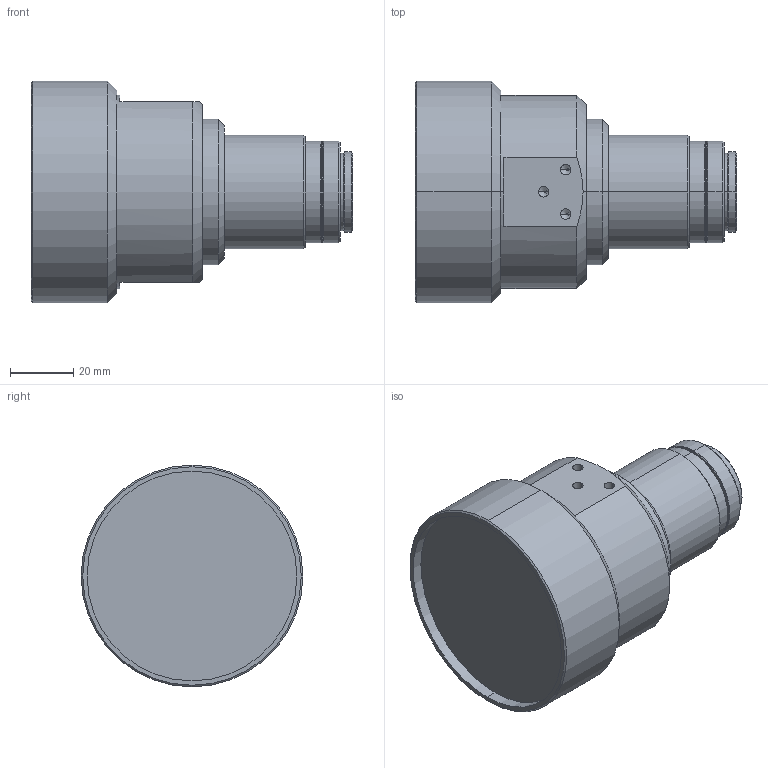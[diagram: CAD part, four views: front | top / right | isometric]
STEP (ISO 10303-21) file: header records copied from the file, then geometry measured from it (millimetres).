
FILE_DESCRIPTION (( 'STEP AP203' ), '1' );
FILE_NAME ('VS-TCM017-110.STEP', '2015-08-28T05:51:27', ( 'miura_vst' ), ( '' ), 'SwSTEP 2.0', 'SolidWorks 2015', '' );
FILE_SCHEMA (( 'CONFIG_CONTROL_DESIGN' ));
Length unit declared in the file: millimetre
Products named in the file (1): VS-TCM017-110
Bounding box: 101.5 x 70 x 70 mm (x, y, z)
Volume: 215264.8 mm3; surface area: 24410.2 mm2
Topology: 1 solids, 1 shells, 80 faces, 176 edges, 100 vertices
Faces by surface type: cone 34, cylinder 32, plane 14
Entity records: 2213 total; most frequent: DIRECTION 410, CARTESIAN_POINT 377, ORIENTED_EDGE 328, AXIS2_PLACEMENT_3D 169, EDGE_CURVE 164, VERTEX_POINT 100, EDGE_LOOP 94, CIRCLE 88
